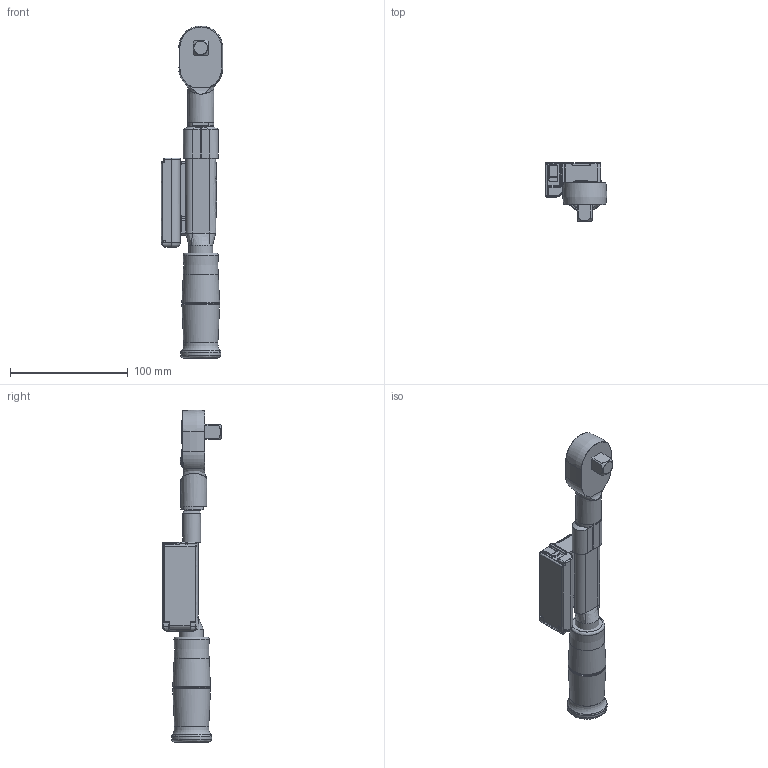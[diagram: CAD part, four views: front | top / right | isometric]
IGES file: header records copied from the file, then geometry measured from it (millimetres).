
Global section: file name: CSPFDD50N3X15D+QH15D; native system: Autodesk Inventor 2016; preprocessor: unknown; author: Q600; date: 20160428.175051; units: millimetre
Bounding box: 52.15 x 49.83 x 281.57 mm (x, y, z)
Surface area: 47674.5 mm2 (no closed solid volume)
Topology: 0 solids, 0 shells, 236 faces, 1557 edges, 1543 vertices
Faces by surface type: revolution 126, bspline 110
